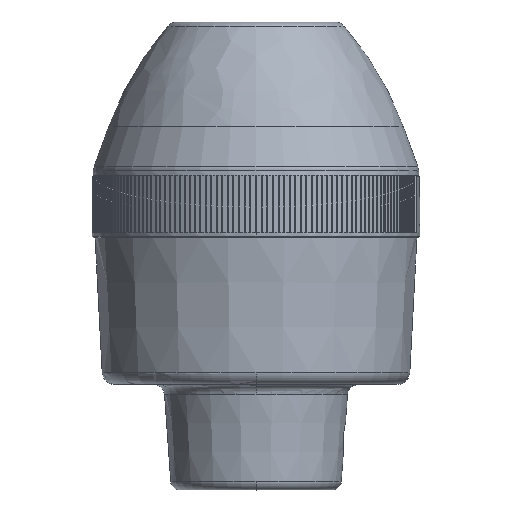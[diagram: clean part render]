
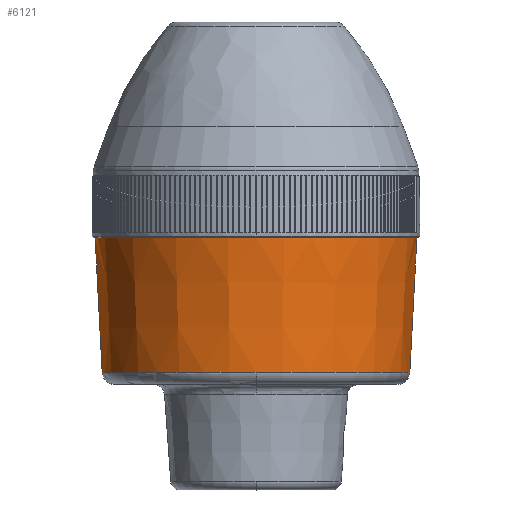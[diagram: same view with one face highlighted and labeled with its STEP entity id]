
A CAD part, top view. The second image highlights one B-rep face of the part: STEP entity #6121.
In plain terms, the highlighted conical face has half-angle 3 degrees and reference radius 44.012 mm.
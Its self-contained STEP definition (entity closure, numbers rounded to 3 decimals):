
#5511=CARTESIAN_POINT('',(45.,32.811,-45.008));
#5512=DIRECTION('',(0.,-1.,0.));
#5513=DIRECTION('',(1.,0.,0.));
#5514=AXIS2_PLACEMENT_3D('',#5511,#5512,#5513);
#5516=DIRECTION('',(-0.052,-0.999,0.));
#5517=VECTOR('',#5516,37.735);
#5518=CARTESIAN_POINT('',(89.999,70.494,-45.008));
#5519=LINE('',#5518,#5517);
#5520=DIRECTION('',(-0.052,0.999,0.));
#5521=VECTOR('',#5520,37.735);
#5522=CARTESIAN_POINT('',(1.975,32.811,-45.008));
#5523=LINE('',#5522,#5521);
#5534=CARTESIAN_POINT('',(45.,70.494,-45.008));
#5535=DIRECTION('',(0.,1.,0.));
#5536=DIRECTION('',(-1.,0.,0.));
#5537=AXIS2_PLACEMENT_3D('',#5534,#5535,#5536);
#6013=CARTESIAN_POINT('',(1.975,32.811,-45.008));
#6014=CARTESIAN_POINT('',(88.024,32.811,-45.008));
#6015=VERTEX_POINT('',#6013);
#6016=VERTEX_POINT('',#6014);
#6022=CARTESIAN_POINT('',(89.999,70.494,-45.008));
#6023=VERTEX_POINT('',#6022);
#6024=CARTESIAN_POINT('',(0.,70.494,
-45.008));
#6025=VERTEX_POINT('',#6024);
#6106=CARTESIAN_POINT('',(45.,51.653,-45.008));
#6107=DIRECTION('',(0.,1.,0.));
#6108=DIRECTION('',(1.,0.,0.));
#6109=AXIS2_PLACEMENT_3D('',#6106,#6107,#6108);
#6110=CONICAL_SURFACE('',#6109,44.012,3.);
#6112=ORIENTED_EDGE('',*,*,#6111,.T.);
#6114=ORIENTED_EDGE('',*,*,#6113,.T.);
#6116=ORIENTED_EDGE('',*,*,#6115,.T.);
#6118=ORIENTED_EDGE('',*,*,#6117,.T.);
#6119=EDGE_LOOP('',(#6112,#6114,#6116,#6118));
#6120=FACE_OUTER_BOUND('',#6119,.F.);
#6121=ADVANCED_FACE('',(#6120),#6110,.T.);
#5515=CIRCLE('',#5514,43.025);
#5538=CIRCLE('',#5537,45.);
#6111=EDGE_CURVE('',#6023,#6016,#5519,.T.);
#6113=EDGE_CURVE('',#6016,#6015,#5515,.T.);
#6115=EDGE_CURVE('',#6015,#6025,#5523,.T.);
#6117=EDGE_CURVE('',#6025,#6023,#5538,.T.);
